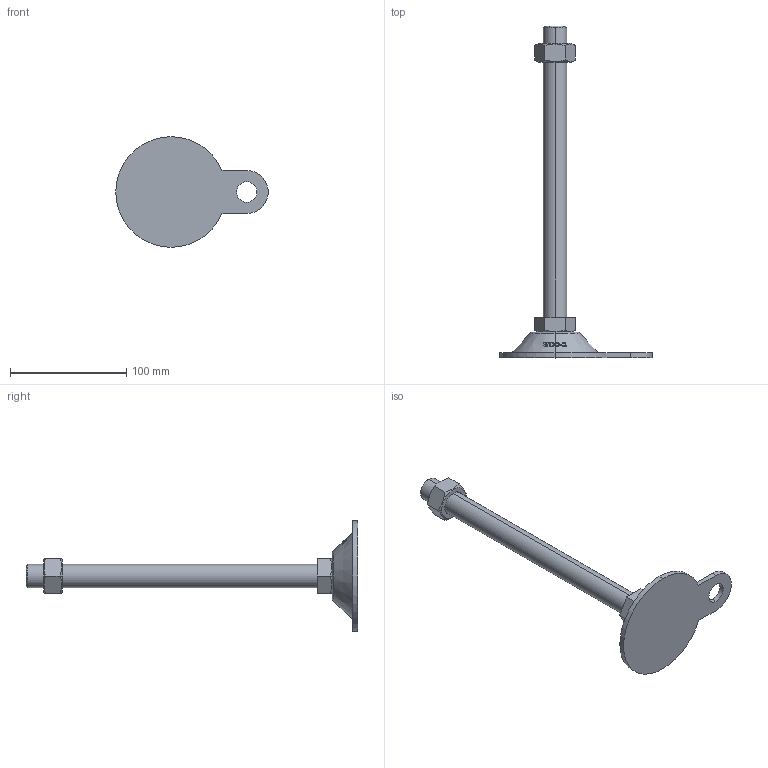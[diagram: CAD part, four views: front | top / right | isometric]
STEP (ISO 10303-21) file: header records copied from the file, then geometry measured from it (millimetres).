
FILE_DESCRIPTION (( 'STEP AP214' ), '1' );
FILE_NAME ('ABL95-M20-250.step', '2021-02-05T04:21:53', ( '' ), ( '' ), 'SwSTEP 2.0', 'SolidWorks 2019', '' );
FILE_SCHEMA (( 'AUTOMOTIVE_DESIGN' ));
Length unit declared in the file: millimetre
Products named in the file (2): ABL95-M20-250
Bounding box: 131 x 285 x 95 mm (x, y, z)
Volume: 179558.5 mm3; surface area: 40154.7 mm2
Topology: 2 solids, 2 shells, 128 faces, 328 edges, 214 vertices
Faces by surface type: plane 48, cylinder 38, cone 22, bspline 18, torus 2
Entity records: 5462 total; most frequent: CARTESIAN_POINT 2562, ORIENTED_EDGE 656, DIRECTION 474, EDGE_CURVE 328, VERTEX_POINT 214, AXIS2_PLACEMENT_3D 176, B_SPLINE_CURVE_WITH_KNOTS 142, EDGE_LOOP 142
